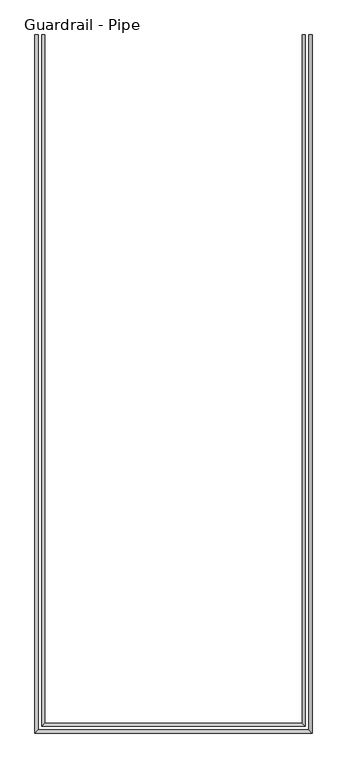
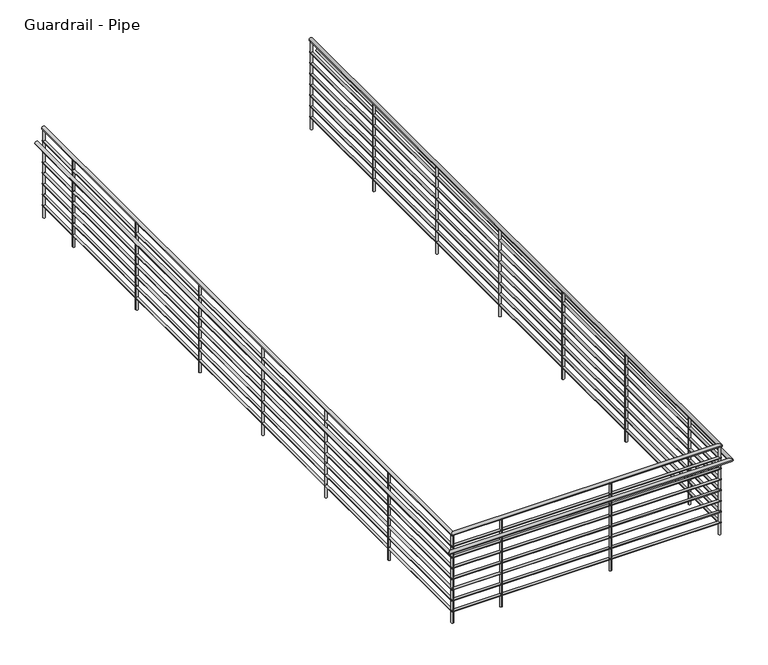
"""IFC4 building model written with IfcOpenShell, lengths in millimetres: railing geometry, Guardrail - Pipe."""

from ifc_helpers import new_model, si_unit, point, frame, frame_2d, origin, place, context, project, spatial, circle_curve, ellipse_curve, trimmed, segment, composite_curve, outline, extrude, source, transform, mapped, element, save
from ifc_brep_helpers import plane_surface, cylinder_surface, advanced_brep


def guardrail_pipe_2c45154f(model_context):
    return source(origin(), model_context, "Body", "SolidModel", [
        advanced_brep(
        [(13977.3813552, 40732.0, 4705.35), (13939.2813552, 40732.0, 4705.35), (13977.3813552, 32813.55, 4705.35), (13939.2813552, 32851.65, 4705.35), (10956.4813551, 32813.55, 4705.35), (10994.5813551, 32851.65, 4705.35), (10956.4813551, 40732.0, 4705.35), (10994.5813551, 40732.0, 4705.35)],
        [
            (0, 1, circle_curve(frame((13958.3313552, 40732.0, 4705.35), z_axis=(0.0, 1.0, 0.0), x_axis=(-1.0, 0.0, 0.0)), 19.05)),
            (1, 0, circle_curve(frame((13958.3313552, 40732.0, 4705.35), z_axis=(0.0, 1.0, 0.0), x_axis=(-1.0, 0.0, 0.0)), 19.05)),
            (0, 2),
            (2, 3, ellipse_curve(frame((13958.3313552, 32832.6, 4705.35), z_axis=(0.7071067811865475, 0.7071067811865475, 0.0), x_axis=(-0.7071067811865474, 0.7071067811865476, 0.0)), 26.9407684, 19.05)),
            (3, 1),
            (3, 2, ellipse_curve(frame((13958.3313552, 32832.6, 4705.35), z_axis=(0.7071067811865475, 0.7071067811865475, 0.0), x_axis=(-0.7071067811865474, 0.7071067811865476, 0.0)), 26.9407684, 19.05)),
            (2, 4),
            (4, 5, ellipse_curve(frame((10975.5313551, 32832.6, 4705.35), z_axis=(0.7071067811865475, -0.7071067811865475, 0.0), x_axis=(0.7071067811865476, 0.7071067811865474, 0.0)), 26.9407684, 19.05)),
            (5, 3),
            (5, 4, ellipse_curve(frame((10975.5313551, 32832.6, 4705.35), z_axis=(0.7071067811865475, -0.7071067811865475, 0.0), x_axis=(0.7071067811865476, 0.7071067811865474, 0.0)), 26.9407684, 19.05)),
            (6, 7, circle_curve(frame((10975.5313551, 40732.0, 4705.35), z_axis=(0.0, 1.0, 0.0), x_axis=(1.0, 0.0, 0.0)), 19.05)),
            (7, 6, circle_curve(frame((10975.5313551, 40732.0, 4705.35), z_axis=(0.0, 1.0, 0.0), x_axis=(1.0, 0.0, 0.0)), 19.05)),
            (4, 6),
            (7, 5),
        ],
        [
            plane_surface(frame((13958.3313552, 40732.0, 4724.4), z_axis=(0.0, 1.0, 0.0), x_axis=(0.0, 0.0, -1.0))),
            cylinder_surface(frame((13958.3313552, 40732.0, 4705.35), z_axis=(0.0, 1.0, 0.0), x_axis=(-1.0, 0.0, 0.0)), 19.05),
            cylinder_surface(frame((13958.3313552, 32832.6, 4705.35), z_axis=(1.0, 0.0, 0.0), x_axis=(0.0, 1.0, 0.0)), 19.05),
            plane_surface(frame((10975.5313551, 40732.0, 4724.4), z_axis=(0.0, 1.0, 0.0), x_axis=(0.0, 0.0, 1.0))),
            cylinder_surface(frame((10975.5313551, 32832.6, 4705.35), z_axis=(0.0, -1.0, 0.0), x_axis=(1.0, 0.0, 0.0)), 19.05),
        ],
        [
            (0, [[1, 2]]),
            (1, [[-1, 3, 4, 5]]),
            (1, [[-2, -5, 6, -3]]),
            (2, [[-4, 7, 8, 9]]),
            (2, [[-6, -9, 10, -7]]),
            (3, [[11, 12]]),
            (4, [[-8, 13, -12, 14]]),
            (4, [[-10, -14, -11, -13]]),
        ],
    ),
        advanced_brep(
        [(13971.0313552, 40732.0, 4559.3), (13945.6313552, 40732.0, 4559.3), (13971.0313552, 32819.9, 4559.3), (13945.6313552, 32845.3, 4559.3), (10962.8313551, 32819.9, 4559.3), (10988.2313551, 32845.3, 4559.3), (10962.8313551, 40732.0, 4559.3), (10988.2313551, 40732.0, 4559.3)],
        [
            (0, 1, circle_curve(frame((13958.3313552, 40732.0, 4559.3), z_axis=(0.0, 1.0, 0.0), x_axis=(-1.0, 0.0, 0.0)), 12.7)),
            (1, 0, circle_curve(frame((13958.3313552, 40732.0, 4559.3), z_axis=(0.0, 1.0, 0.0), x_axis=(-1.0, 0.0, 0.0)), 12.7)),
            (0, 2),
            (2, 3, ellipse_curve(frame((13958.3313552, 32832.6, 4559.3), z_axis=(0.7071067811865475, 0.7071067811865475, 0.0), x_axis=(-0.7071067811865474, 0.7071067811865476, 0.0)), 17.9605122, 12.7)),
            (3, 1),
            (3, 2, ellipse_curve(frame((13958.3313552, 32832.6, 4559.3), z_axis=(0.7071067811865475, 0.7071067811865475, 0.0), x_axis=(-0.7071067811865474, 0.7071067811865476, 0.0)), 17.9605122, 12.7)),
            (2, 4),
            (4, 5, ellipse_curve(frame((10975.5313551, 32832.6, 4559.3), z_axis=(0.7071067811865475, -0.7071067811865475, 0.0), x_axis=(0.7071067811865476, 0.7071067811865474, 0.0)), 17.9605122, 12.7)),
            (5, 3),
            (5, 4, ellipse_curve(frame((10975.5313551, 32832.6, 4559.3), z_axis=(0.7071067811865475, -0.7071067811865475, 0.0), x_axis=(0.7071067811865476, 0.7071067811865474, 0.0)), 17.9605122, 12.7)),
            (6, 7, circle_curve(frame((10975.5313551, 40732.0, 4559.3), z_axis=(0.0, 1.0, 0.0), x_axis=(1.0, 0.0, 0.0)), 12.7)),
            (7, 6, circle_curve(frame((10975.5313551, 40732.0, 4559.3), z_axis=(0.0, 1.0, 0.0), x_axis=(1.0, 0.0, 0.0)), 12.7)),
            (4, 6),
            (7, 5),
        ],
        [
            plane_surface(frame((13958.3313552, 40732.0, 4572.0), z_axis=(0.0, 1.0, 0.0), x_axis=(0.0, 0.0, -1.0))),
            cylinder_surface(frame((13958.3313552, 40732.0, 4559.3), z_axis=(0.0, 1.0, 0.0), x_axis=(-1.0, 0.0, 0.0)), 12.7),
            cylinder_surface(frame((13958.3313552, 32832.6, 4559.3), z_axis=(1.0, 0.0, 0.0), x_axis=(0.0, 1.0, 0.0)), 12.7),
            plane_surface(frame((10975.5313551, 40732.0, 4572.0), z_axis=(0.0, 1.0, 0.0), x_axis=(0.0, 0.0, 1.0))),
            cylinder_surface(frame((10975.5313551, 32832.6, 4559.3), z_axis=(0.0, -1.0, 0.0), x_axis=(1.0, 0.0, 0.0)), 12.7),
        ],
        [
            (0, [[1, 2]]),
            (1, [[-1, 3, 4, 5]]),
            (1, [[-2, -5, 6, -3]]),
            (2, [[-4, 7, 8, 9]]),
            (2, [[-6, -9, 10, -7]]),
            (3, [[11, 12]]),
            (4, [[-8, 13, -12, 14]]),
            (4, [[-10, -14, -11, -13]]),
        ],
    ),
        advanced_brep(
        [(14053.5813552, 40732.0, 4552.95), (14015.4813552, 40732.0, 4552.95), (14053.5813552, 32737.35, 4552.95), (14015.4813552, 32775.45, 4552.95), (10880.2813551, 32737.35, 4552.95), (10918.3813551, 32775.45, 4552.95), (10880.2813551, 40732.0, 4552.95), (10918.3813551, 40732.0, 4552.95)],
        [
            (0, 1, circle_curve(frame((14034.5313552, 40732.0, 4552.95), z_axis=(0.0, 1.0, 0.0), x_axis=(-1.0, 0.0, 0.0)), 19.05)),
            (1, 0, circle_curve(frame((14034.5313552, 40732.0, 4552.95), z_axis=(0.0, 1.0, 0.0), x_axis=(-1.0, 0.0, 0.0)), 19.05)),
            (0, 2),
            (2, 3, ellipse_curve(frame((14034.5313552, 32756.4, 4552.95), z_axis=(0.7071067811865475, 0.7071067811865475, 0.0), x_axis=(-0.7071067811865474, 0.7071067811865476, 0.0)), 26.9407684, 19.05)),
            (3, 1),
            (3, 2, ellipse_curve(frame((14034.5313552, 32756.4, 4552.95), z_axis=(0.7071067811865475, 0.7071067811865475, 0.0), x_axis=(-0.7071067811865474, 0.7071067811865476, 0.0)), 26.9407684, 19.05)),
            (2, 4),
            (4, 5, ellipse_curve(frame((10899.3313551, 32756.4, 4552.95), z_axis=(0.7071067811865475, -0.7071067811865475, 0.0), x_axis=(0.7071067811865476, 0.7071067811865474, 0.0)), 26.9407684, 19.05)),
            (5, 3),
            (5, 4, ellipse_curve(frame((10899.3313551, 32756.4, 4552.95), z_axis=(0.7071067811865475, -0.7071067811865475, 0.0), x_axis=(0.7071067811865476, 0.7071067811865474, 0.0)), 26.9407684, 19.05)),
            (6, 7, circle_curve(frame((10899.3313551, 40732.0, 4552.95), z_axis=(0.0, 1.0, 0.0), x_axis=(1.0, 0.0, 0.0)), 19.05)),
            (7, 6, circle_curve(frame((10899.3313551, 40732.0, 4552.95), z_axis=(0.0, 1.0, 0.0), x_axis=(1.0, 0.0, 0.0)), 19.05)),
            (4, 6),
            (7, 5),
        ],
        [
            plane_surface(frame((14034.5313552, 40732.0, 4572.0), z_axis=(0.0, 1.0, 0.0), x_axis=(0.0, 0.0, -1.0))),
            cylinder_surface(frame((14034.5313552, 40732.0, 4552.95), z_axis=(0.0, 1.0, 0.0), x_axis=(-1.0, 0.0, 0.0)), 19.05),
            cylinder_surface(frame((14034.5313552, 32756.4, 4552.95), z_axis=(1.0, 0.0, 0.0), x_axis=(0.0, 1.0, 0.0)), 19.05),
            plane_surface(frame((10899.3313551, 40732.0, 4572.0), z_axis=(0.0, 1.0, 0.0), x_axis=(0.0, 0.0, 1.0))),
            cylinder_surface(frame((10899.3313551, 32756.4, 4552.95), z_axis=(0.0, -1.0, 0.0), x_axis=(1.0, 0.0, 0.0)), 19.05),
        ],
        [
            (0, [[1, 2]]),
            (1, [[-1, 3, 4, 5]]),
            (1, [[-2, -5, 6, -3]]),
            (2, [[-4, 7, 8, 9]]),
            (2, [[-6, -9, 10, -7]]),
            (3, [[11, 12]]),
            (4, [[-8, 13, -12, 14]]),
            (4, [[-10, -14, -11, -13]]),
        ],
    ),
        advanced_brep(
        [(13971.0313552, 40732.0, 4432.3), (13945.6313552, 40732.0, 4432.3), (13971.0313552, 32819.9, 4432.3), (13945.6313552, 32845.3, 4432.3), (10962.8313551, 32819.9, 4432.3), (10988.2313551, 32845.3, 4432.3), (10962.8313551, 40732.0, 4432.3), (10988.2313551, 40732.0, 4432.3)],
        [
            (0, 1, circle_curve(frame((13958.3313552, 40732.0, 4432.3), z_axis=(0.0, 1.0, 0.0), x_axis=(-1.0, 0.0, 0.0)), 12.7)),
            (1, 0, circle_curve(frame((13958.3313552, 40732.0, 4432.3), z_axis=(0.0, 1.0, 0.0), x_axis=(-1.0, 0.0, 0.0)), 12.7)),
            (0, 2),
            (2, 3, ellipse_curve(frame((13958.3313552, 32832.6, 4432.3), z_axis=(0.7071067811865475, 0.7071067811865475, 0.0), x_axis=(-0.7071067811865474, 0.7071067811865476, 0.0)), 17.9605122, 12.7)),
            (3, 1),
            (3, 2, ellipse_curve(frame((13958.3313552, 32832.6, 4432.3), z_axis=(0.7071067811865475, 0.7071067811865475, 0.0), x_axis=(-0.7071067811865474, 0.7071067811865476, 0.0)), 17.9605122, 12.7)),
            (2, 4),
            (4, 5, ellipse_curve(frame((10975.5313551, 32832.6, 4432.3), z_axis=(0.7071067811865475, -0.7071067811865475, 0.0), x_axis=(0.7071067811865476, 0.7071067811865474, 0.0)), 17.9605122, 12.7)),
            (5, 3),
            (5, 4, ellipse_curve(frame((10975.5313551, 32832.6, 4432.3), z_axis=(0.7071067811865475, -0.7071067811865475, 0.0), x_axis=(0.7071067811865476, 0.7071067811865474, 0.0)), 17.9605122, 12.7)),
            (6, 7, circle_curve(frame((10975.5313551, 40732.0, 4432.3), z_axis=(0.0, 1.0, 0.0), x_axis=(1.0, 0.0, 0.0)), 12.7)),
            (7, 6, circle_curve(frame((10975.5313551, 40732.0, 4432.3), z_axis=(0.0, 1.0, 0.0), x_axis=(1.0, 0.0, 0.0)), 12.7)),
            (4, 6),
            (7, 5),
        ],
        [
            plane_surface(frame((13958.3313552, 40732.0, 4445.0), z_axis=(0.0, 1.0, 0.0), x_axis=(0.0, 0.0, -1.0))),
            cylinder_surface(frame((13958.3313552, 40732.0, 4432.3), z_axis=(0.0, 1.0, 0.0), x_axis=(-1.0, 0.0, 0.0)), 12.7),
            cylinder_surface(frame((13958.3313552, 32832.6, 4432.3), z_axis=(1.0, 0.0, 0.0), x_axis=(0.0, 1.0, 0.0)), 12.7),
            plane_surface(frame((10975.5313551, 40732.0, 4445.0), z_axis=(0.0, 1.0, 0.0), x_axis=(0.0, 0.0, 1.0))),
            cylinder_surface(frame((10975.5313551, 32832.6, 4432.3), z_axis=(0.0, -1.0, 0.0), x_axis=(1.0, 0.0, 0.0)), 12.7),
        ],
        [
            (0, [[1, 2]]),
            (1, [[-1, 3, 4, 5]]),
            (1, [[-2, -5, 6, -3]]),
            (2, [[-4, 7, 8, 9]]),
            (2, [[-6, -9, 10, -7]]),
            (3, [[11, 12]]),
            (4, [[-8, 13, -12, 14]]),
            (4, [[-10, -14, -11, -13]]),
        ],
    ),
        advanced_brep(
        [(13971.0313552, 40732.0, 4305.3), (13945.6313552, 40732.0, 4305.3), (13971.0313552, 32819.9, 4305.3), (13945.6313552, 32845.3, 4305.3), (10962.8313551, 32819.9, 4305.3), (10988.2313551, 32845.3, 4305.3), (10962.8313551, 40732.0, 4305.3), (10988.2313551, 40732.0, 4305.3)],
        [
            (0, 1, circle_curve(frame((13958.3313552, 40732.0, 4305.3), z_axis=(0.0, 1.0, 0.0), x_axis=(-1.0, 0.0, 0.0)), 12.7)),
            (1, 0, circle_curve(frame((13958.3313552, 40732.0, 4305.3), z_axis=(0.0, 1.0, 0.0), x_axis=(-1.0, 0.0, 0.0)), 12.7)),
            (0, 2),
            (2, 3, ellipse_curve(frame((13958.3313552, 32832.6, 4305.3), z_axis=(0.7071067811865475, 0.7071067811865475, 0.0), x_axis=(-0.7071067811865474, 0.7071067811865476, 0.0)), 17.9605122, 12.7)),
            (3, 1),
            (3, 2, ellipse_curve(frame((13958.3313552, 32832.6, 4305.3), z_axis=(0.7071067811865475, 0.7071067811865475, 0.0), x_axis=(-0.7071067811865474, 0.7071067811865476, 0.0)), 17.9605122, 12.7)),
            (2, 4),
            (4, 5, ellipse_curve(frame((10975.5313551, 32832.6, 4305.3), z_axis=(0.7071067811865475, -0.7071067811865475, 0.0), x_axis=(0.7071067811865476, 0.7071067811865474, 0.0)), 17.9605122, 12.7)),
            (5, 3),
            (5, 4, ellipse_curve(frame((10975.5313551, 32832.6, 4305.3), z_axis=(0.7071067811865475, -0.7071067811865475, 0.0), x_axis=(0.7071067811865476, 0.7071067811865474, 0.0)), 17.9605122, 12.7)),
            (6, 7, circle_curve(frame((10975.5313551, 40732.0, 4305.3), z_axis=(0.0, 1.0, 0.0), x_axis=(1.0, 0.0, 0.0)), 12.7)),
            (7, 6, circle_curve(frame((10975.5313551, 40732.0, 4305.3), z_axis=(0.0, 1.0, 0.0), x_axis=(1.0, 0.0, 0.0)), 12.7)),
            (4, 6),
            (7, 5),
        ],
        [
            plane_surface(frame((13958.3313552, 40732.0, 4318.0), z_axis=(0.0, 1.0, 0.0), x_axis=(0.0, 0.0, -1.0))),
            cylinder_surface(frame((13958.3313552, 40732.0, 4305.3), z_axis=(0.0, 1.0, 0.0), x_axis=(-1.0, 0.0, 0.0)), 12.7),
            cylinder_surface(frame((13958.3313552, 32832.6, 4305.3), z_axis=(1.0, 0.0, 0.0), x_axis=(0.0, 1.0, 0.0)), 12.7),
            plane_surface(frame((10975.5313551, 40732.0, 4318.0), z_axis=(0.0, 1.0, 0.0), x_axis=(0.0, 0.0, 1.0))),
            cylinder_surface(frame((10975.5313551, 32832.6, 4305.3), z_axis=(0.0, -1.0, 0.0), x_axis=(1.0, 0.0, 0.0)), 12.7),
        ],
        [
            (0, [[1, 2]]),
            (1, [[-1, 3, 4, 5]]),
            (1, [[-2, -5, 6, -3]]),
            (2, [[-4, 7, 8, 9]]),
            (2, [[-6, -9, 10, -7]]),
            (3, [[11, 12]]),
            (4, [[-8, 13, -12, 14]]),
            (4, [[-10, -14, -11, -13]]),
        ],
    ),
        advanced_brep(
        [(13971.0313552, 40732.0, 4178.3), (13945.6313552, 40732.0, 4178.3), (13971.0313552, 32819.9, 4178.3), (13945.6313552, 32845.3, 4178.3), (10962.8313551, 32819.9, 4178.3), (10988.2313551, 32845.3, 4178.3), (10962.8313551, 40732.0, 4178.3), (10988.2313551, 40732.0, 4178.3)],
        [
            (0, 1, circle_curve(frame((13958.3313552, 40732.0, 4178.3), z_axis=(0.0, 1.0, 0.0), x_axis=(-1.0, 0.0, 0.0)), 12.7)),
            (1, 0, circle_curve(frame((13958.3313552, 40732.0, 4178.3), z_axis=(0.0, 1.0, 0.0), x_axis=(-1.0, 0.0, 0.0)), 12.7)),
            (0, 2),
            (2, 3, ellipse_curve(frame((13958.3313552, 32832.6, 4178.3), z_axis=(0.7071067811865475, 0.7071067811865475, 0.0), x_axis=(-0.7071067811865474, 0.7071067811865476, 0.0)), 17.9605122, 12.7)),
            (3, 1),
            (3, 2, ellipse_curve(frame((13958.3313552, 32832.6, 4178.3), z_axis=(0.7071067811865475, 0.7071067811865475, 0.0), x_axis=(-0.7071067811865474, 0.7071067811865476, 0.0)), 17.9605122, 12.7)),
            (2, 4),
            (4, 5, ellipse_curve(frame((10975.5313551, 32832.6, 4178.3), z_axis=(0.7071067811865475, -0.7071067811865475, 0.0), x_axis=(0.7071067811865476, 0.7071067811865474, 0.0)), 17.9605122, 12.7)),
            (5, 3),
            (5, 4, ellipse_curve(frame((10975.5313551, 32832.6, 4178.3), z_axis=(0.7071067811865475, -0.7071067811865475, 0.0), x_axis=(0.7071067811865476, 0.7071067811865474, 0.0)), 17.9605122, 12.7)),
            (6, 7, circle_curve(frame((10975.5313551, 40732.0, 4178.3), z_axis=(0.0, 1.0, 0.0), x_axis=(1.0, 0.0, 0.0)), 12.7)),
            (7, 6, circle_curve(frame((10975.5313551, 40732.0, 4178.3), z_axis=(0.0, 1.0, 0.0), x_axis=(1.0, 0.0, 0.0)), 12.7)),
            (4, 6),
            (7, 5),
        ],
        [
            plane_surface(frame((13958.3313552, 40732.0, 4191.0), z_axis=(0.0, 1.0, 0.0), x_axis=(0.0, 0.0, -1.0))),
            cylinder_surface(frame((13958.3313552, 40732.0, 4178.3), z_axis=(0.0, 1.0, 0.0), x_axis=(-1.0, 0.0, 0.0)), 12.7),
            cylinder_surface(frame((13958.3313552, 32832.6, 4178.3), z_axis=(1.0, 0.0, 0.0), x_axis=(0.0, 1.0, 0.0)), 12.7),
            plane_surface(frame((10975.5313551, 40732.0, 4191.0), z_axis=(0.0, 1.0, 0.0), x_axis=(0.0, 0.0, 1.0))),
            cylinder_surface(frame((10975.5313551, 32832.6, 4178.3), z_axis=(0.0, -1.0, 0.0), x_axis=(1.0, 0.0, 0.0)), 12.7),
        ],
        [
            (0, [[1, 2]]),
            (1, [[-1, 3, 4, 5]]),
            (1, [[-2, -5, 6, -3]]),
            (2, [[-4, 7, 8, 9]]),
            (2, [[-6, -9, 10, -7]]),
            (3, [[11, 12]]),
            (4, [[-8, 13, -12, 14]]),
            (4, [[-10, -14, -11, -13]]),
        ],
    ),
        advanced_brep(
        [(13971.0313552, 40732.0, 4051.3), (13945.6313552, 40732.0, 4051.3), (13971.0313552, 32819.9, 4051.3), (13945.6313552, 32845.3, 4051.3), (10962.8313551, 32819.9, 4051.3), (10988.2313551, 32845.3, 4051.3), (10962.8313551, 40732.0, 4051.3), (10988.2313551, 40732.0, 4051.3)],
        [
            (0, 1, circle_curve(frame((13958.3313552, 40732.0, 4051.3), z_axis=(0.0, 1.0, 0.0), x_axis=(-1.0, 0.0, 0.0)), 12.7)),
            (1, 0, circle_curve(frame((13958.3313552, 40732.0, 4051.3), z_axis=(0.0, 1.0, 0.0), x_axis=(-1.0, 0.0, 0.0)), 12.7)),
            (0, 2),
            (2, 3, ellipse_curve(frame((13958.3313552, 32832.6, 4051.3), z_axis=(0.7071067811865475, 0.7071067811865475, 0.0), x_axis=(-0.7071067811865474, 0.7071067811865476, 0.0)), 17.9605122, 12.7)),
            (3, 1),
            (3, 2, ellipse_curve(frame((13958.3313552, 32832.6, 4051.3), z_axis=(0.7071067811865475, 0.7071067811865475, 0.0), x_axis=(-0.7071067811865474, 0.7071067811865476, 0.0)), 17.9605122, 12.7)),
            (2, 4),
            (4, 5, ellipse_curve(frame((10975.5313551, 32832.6, 4051.3), z_axis=(0.7071067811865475, -0.7071067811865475, 0.0), x_axis=(0.7071067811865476, 0.7071067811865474, 0.0)), 17.9605122, 12.7)),
            (5, 3),
            (5, 4, ellipse_curve(frame((10975.5313551, 32832.6, 4051.3), z_axis=(0.7071067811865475, -0.7071067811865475, 0.0), x_axis=(0.7071067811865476, 0.7071067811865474, 0.0)), 17.9605122, 12.7)),
            (6, 7, circle_curve(frame((10975.5313551, 40732.0, 4051.3), z_axis=(0.0, 1.0, 0.0), x_axis=(1.0, 0.0, 0.0)), 12.7)),
            (7, 6, circle_curve(frame((10975.5313551, 40732.0, 4051.3), z_axis=(0.0, 1.0, 0.0), x_axis=(1.0, 0.0, 0.0)), 12.7)),
            (4, 6),
            (7, 5),
        ],
        [
            plane_surface(frame((13958.3313552, 40732.0, 4064.0), z_axis=(0.0, 1.0, 0.0), x_axis=(0.0, 0.0, -1.0))),
            cylinder_surface(frame((13958.3313552, 40732.0, 4051.3), z_axis=(0.0, 1.0, 0.0), x_axis=(-1.0, 0.0, 0.0)), 12.7),
            cylinder_surface(frame((13958.3313552, 32832.6, 4051.3), z_axis=(1.0, 0.0, 0.0), x_axis=(0.0, 1.0, 0.0)), 12.7),
            plane_surface(frame((10975.5313551, 40732.0, 4064.0), z_axis=(0.0, 1.0, 0.0), x_axis=(0.0, 0.0, 1.0))),
            cylinder_surface(frame((10975.5313551, 32832.6, 4051.3), z_axis=(0.0, -1.0, 0.0), x_axis=(1.0, 0.0, 0.0)), 12.7),
        ],
        [
            (0, [[1, 2]]),
            (1, [[-1, 3, 4, 5]]),
            (1, [[-2, -5, 6, -3]]),
            (2, [[-4, 7, 8, 9]]),
            (2, [[-6, -9, 10, -7]]),
            (3, [[11, 12]]),
            (4, [[-8, 13, -12, 14]]),
            (4, [[-10, -14, -11, -13]]),
        ],
    ),
        advanced_brep(
        [(13971.0313552, 40732.0, 3924.3), (13945.6313552, 40732.0, 3924.3), (13971.0313552, 32819.9, 3924.3), (13945.6313552, 32845.3, 3924.3), (10962.8313551, 32819.9, 3924.3), (10988.2313551, 32845.3, 3924.3), (10962.8313551, 40732.0, 3924.3), (10988.2313551, 40732.0, 3924.3)],
        [
            (0, 1, circle_curve(frame((13958.3313552, 40732.0, 3924.3), z_axis=(0.0, 1.0, 0.0), x_axis=(-1.0, 0.0, 0.0)), 12.7)),
            (1, 0, circle_curve(frame((13958.3313552, 40732.0, 3924.3), z_axis=(0.0, 1.0, 0.0), x_axis=(-1.0, 0.0, 0.0)), 12.7)),
            (0, 2),
            (2, 3, ellipse_curve(frame((13958.3313552, 32832.6, 3924.3), z_axis=(0.7071067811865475, 0.7071067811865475, 0.0), x_axis=(-0.7071067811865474, 0.7071067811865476, 0.0)), 17.9605122, 12.7)),
            (3, 1),
            (3, 2, ellipse_curve(frame((13958.3313552, 32832.6, 3924.3), z_axis=(0.7071067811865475, 0.7071067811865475, 0.0), x_axis=(-0.7071067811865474, 0.7071067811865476, 0.0)), 17.9605122, 12.7)),
            (2, 4),
            (4, 5, ellipse_curve(frame((10975.5313551, 32832.6, 3924.3), z_axis=(0.7071067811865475, -0.7071067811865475, 0.0), x_axis=(0.7071067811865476, 0.7071067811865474, 0.0)), 17.9605122, 12.7)),
            (5, 3),
            (5, 4, ellipse_curve(frame((10975.5313551, 32832.6, 3924.3), z_axis=(0.7071067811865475, -0.7071067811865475, 0.0), x_axis=(0.7071067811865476, 0.7071067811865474, 0.0)), 17.9605122, 12.7)),
            (6, 7, circle_curve(frame((10975.5313551, 40732.0, 3924.3), z_axis=(0.0, 1.0, 0.0), x_axis=(1.0, 0.0, 0.0)), 12.7)),
            (7, 6, circle_curve(frame((10975.5313551, 40732.0, 3924.3), z_axis=(0.0, 1.0, 0.0), x_axis=(1.0, 0.0, 0.0)), 12.7)),
            (4, 6),
            (7, 5),
        ],
        [
            plane_surface(frame((13958.3313552, 40732.0, 3937.0), z_axis=(0.0, 1.0, 0.0), x_axis=(0.0, 0.0, -1.0))),
            cylinder_surface(frame((13958.3313552, 40732.0, 3924.3), z_axis=(0.0, 1.0, 0.0), x_axis=(-1.0, 0.0, 0.0)), 12.7),
            cylinder_surface(frame((13958.3313552, 32832.6, 3924.3), z_axis=(1.0, 0.0, 0.0), x_axis=(0.0, 1.0, 0.0)), 12.7),
            plane_surface(frame((10975.5313551, 40732.0, 3937.0), z_axis=(0.0, 1.0, 0.0), x_axis=(0.0, 0.0, 1.0))),
            cylinder_surface(frame((10975.5313551, 32832.6, 3924.3), z_axis=(0.0, -1.0, 0.0), x_axis=(1.0, 0.0, 0.0)), 12.7),
        ],
        [
            (0, [[1, 2]]),
            (1, [[-1, 3, 4, 5]]),
            (1, [[-2, -5, 6, -3]]),
            (2, [[-4, 7, 8, 9]]),
            (2, [[-6, -9, 10, -7]]),
            (3, [[11, 12]]),
            (4, [[-8, 13, -12, 14]]),
            (4, [[-10, -14, -11, -13]]),
        ],
    ),
        advanced_brep(
        [(13971.0313552, 40732.0, 3797.3), (13945.6313552, 40732.0, 3797.3), (13971.0313552, 32819.9, 3797.3), (13945.6313552, 32845.3, 3797.3), (10962.8313551, 32819.9, 3797.3), (10988.2313551, 32845.3, 3797.3), (10962.8313551, 40732.0, 3797.3), (10988.2313551, 40732.0, 3797.3)],
        [
            (0, 1, circle_curve(frame((13958.3313552, 40732.0, 3797.3), z_axis=(0.0, 1.0, 0.0), x_axis=(-1.0, 0.0, 0.0)), 12.7)),
            (1, 0, circle_curve(frame((13958.3313552, 40732.0, 3797.3), z_axis=(0.0, 1.0, 0.0), x_axis=(-1.0, 0.0, 0.0)), 12.7)),
            (0, 2),
            (2, 3, ellipse_curve(frame((13958.3313552, 32832.6, 3797.3), z_axis=(0.7071067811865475, 0.7071067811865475, 0.0), x_axis=(-0.7071067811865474, 0.7071067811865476, 0.0)), 17.9605122, 12.7)),
            (3, 1),
            (3, 2, ellipse_curve(frame((13958.3313552, 32832.6, 3797.3), z_axis=(0.7071067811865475, 0.7071067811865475, 0.0), x_axis=(-0.7071067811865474, 0.7071067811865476, 0.0)), 17.9605122, 12.7)),
            (2, 4),
            (4, 5, ellipse_curve(frame((10975.5313551, 32832.6, 3797.3), z_axis=(0.7071067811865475, -0.7071067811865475, 0.0), x_axis=(0.7071067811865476, 0.7071067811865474, 0.0)), 17.9605122, 12.7)),
            (5, 3),
            (5, 4, ellipse_curve(frame((10975.5313551, 32832.6, 3797.3), z_axis=(0.7071067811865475, -0.7071067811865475, 0.0), x_axis=(0.7071067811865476, 0.7071067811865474, 0.0)), 17.9605122, 12.7)),
            (6, 7, circle_curve(frame((10975.5313551, 40732.0, 3797.3), z_axis=(0.0, 1.0, 0.0), x_axis=(1.0, 0.0, 0.0)), 12.7)),
            (7, 6, circle_curve(frame((10975.5313551, 40732.0, 3797.3), z_axis=(0.0, 1.0, 0.0), x_axis=(1.0, 0.0, 0.0)), 12.7)),
            (4, 6),
            (7, 5),
        ],
        [
            plane_surface(frame((13958.3313552, 40732.0, 3810.0), z_axis=(0.0, 1.0, 0.0), x_axis=(0.0, 0.0, -1.0))),
            cylinder_surface(frame((13958.3313552, 40732.0, 3797.3), z_axis=(0.0, 1.0, 0.0), x_axis=(-1.0, 0.0, 0.0)), 12.7),
            cylinder_surface(frame((13958.3313552, 32832.6, 3797.3), z_axis=(1.0, 0.0, 0.0), x_axis=(0.0, 1.0, 0.0)), 12.7),
            plane_surface(frame((10975.5313551, 40732.0, 3810.0), z_axis=(0.0, 1.0, 0.0), x_axis=(0.0, 0.0, 1.0))),
            cylinder_surface(frame((10975.5313551, 32832.6, 3797.3), z_axis=(0.0, -1.0, 0.0), x_axis=(1.0, 0.0, 0.0)), 12.7),
        ],
        [
            (0, [[1, 2]]),
            (1, [[-1, 3, 4, 5]]),
            (1, [[-2, -5, 6, -3]]),
            (2, [[-4, 7, 8, 9]]),
            (2, [[-6, -9, 10, -7]]),
            (3, [[11, 12]]),
            (4, [[-8, 13, -12, 14]]),
            (4, [[-10, -14, -11, -13]]),
        ],
    ),
        extrude(outline(composite_curve([segment(trimmed(circle_curve(frame_2d((10975.5313551, 40147.8)), 12.7), [point((10962.8313551, 40147.8))], [point((10988.2313551, 40147.8))], False, "CARTESIAN"), True, "CONTINUOUS"), segment(trimmed(circle_curve(frame_2d((10975.5313551, 40147.8)), 12.7), [point((10988.2313551, 40147.8))], [point((10962.8313551, 40147.8))], False, "CARTESIAN"), True, "CONTINUOUS")], self_intersect=False)), frame((0.0, 0.0, 3657.6), z_axis=(0.0, 0.0, 1.0), x_axis=(1.0, 0.0, 0.0)), (0.0, 0.0, 1.0), 1028.7),
        extrude(outline(composite_curve([segment(trimmed(circle_curve(frame_2d((10975.5313551, 38928.6)), 12.7), [point((10962.8313551, 38928.6))], [point((10988.2313551, 38928.6))], False, "CARTESIAN"), True, "CONTINUOUS"), segment(trimmed(circle_curve(frame_2d((10975.5313551, 38928.6)), 12.7), [point((10988.2313551, 38928.6))], [point((10962.8313551, 38928.6))], False, "CARTESIAN"), True, "CONTINUOUS")], self_intersect=False)), frame((0.0, 0.0, 3657.6), z_axis=(0.0, 0.0, 1.0), x_axis=(1.0, 0.0, 0.0)), (0.0, 0.0, 1.0), 1028.7),
        extrude(outline(composite_curve([segment(trimmed(circle_curve(frame_2d((10975.5313551, 37709.4)), 12.7), [point((10962.8313551, 37709.4))], [point((10988.2313551, 37709.4))], False, "CARTESIAN"), True, "CONTINUOUS"), segment(trimmed(circle_curve(frame_2d((10975.5313551, 37709.4)), 12.7), [point((10988.2313551, 37709.4))], [point((10962.8313551, 37709.4))], False, "CARTESIAN"), True, "CONTINUOUS")], self_intersect=False)), frame((0.0, 0.0, 3657.6), z_axis=(0.0, 0.0, 1.0), x_axis=(1.0, 0.0, 0.0)), (0.0, 0.0, 1.0), 1028.7),
        extrude(outline(composite_curve([segment(trimmed(circle_curve(frame_2d((10975.5313551, 36490.2)), 12.7), [point((10962.8313551, 36490.2))], [point((10988.2313551, 36490.2))], False, "CARTESIAN"), True, "CONTINUOUS"), segment(trimmed(circle_curve(frame_2d((10975.5313551, 36490.2)), 12.7), [point((10988.2313551, 36490.2))], [point((10962.8313551, 36490.2))], False, "CARTESIAN"), True, "CONTINUOUS")], self_intersect=False)), frame((0.0, 0.0, 3657.6), z_axis=(0.0, 0.0, 1.0), x_axis=(1.0, 0.0, 0.0)), (0.0, 0.0, 1.0), 1028.7),
        extrude(outline(composite_curve([segment(trimmed(circle_curve(frame_2d((10975.5313551, 35271.0)), 12.7), [point((10962.8313551, 35271.0))], [point((10988.2313551, 35271.0))], False, "CARTESIAN"), True, "CONTINUOUS"), segment(trimmed(circle_curve(frame_2d((10975.5313551, 35271.0)), 12.7), [point((10988.2313551, 35271.0))], [point((10962.8313551, 35271.0))], False, "CARTESIAN"), True, "CONTINUOUS")], self_intersect=False)), frame((0.0, 0.0, 3657.6), z_axis=(0.0, 0.0, 1.0), x_axis=(1.0, 0.0, 0.0)), (0.0, 0.0, 1.0), 1028.7),
        extrude(outline(composite_curve([segment(trimmed(circle_curve(frame_2d((10975.5313551, 34051.8)), 12.7), [point((10962.8313551, 34051.8))], [point((10988.2313551, 34051.8))], False, "CARTESIAN"), True, "CONTINUOUS"), segment(trimmed(circle_curve(frame_2d((10975.5313551, 34051.8)), 12.7), [point((10988.2313551, 34051.8))], [point((10962.8313551, 34051.8))], False, "CARTESIAN"), True, "CONTINUOUS")], self_intersect=False)), frame((0.0, 0.0, 3657.6), z_axis=(0.0, 0.0, 1.0), x_axis=(1.0, 0.0, 0.0)), (0.0, 0.0, 1.0), 1028.7),
        extrude(outline(composite_curve([segment(trimmed(circle_curve(frame_2d((11519.9313552, 32832.6)), 12.7), [point((11519.9313552, 32819.9))], [point((11519.9313552, 32845.3))], False, "CARTESIAN"), True, "CONTINUOUS"), segment(trimmed(circle_curve(frame_2d((11519.9313552, 32832.6)), 12.7), [point((11519.9313552, 32845.3))], [point((11519.9313552, 32819.9))], False, "CARTESIAN"), True, "CONTINUOUS")], self_intersect=False)), frame((0.0, 0.0, 3657.6), z_axis=(0.0, 0.0, 1.0), x_axis=(1.0, 0.0, 0.0)), (0.0, 0.0, 1.0), 1028.7),
        extrude(outline(composite_curve([segment(trimmed(circle_curve(frame_2d((12739.1313552, 32832.6)), 12.7), [point((12739.1313552, 32819.9))], [point((12739.1313552, 32845.3))], False, "CARTESIAN"), True, "CONTINUOUS"), segment(trimmed(circle_curve(frame_2d((12739.1313552, 32832.6)), 12.7), [point((12739.1313552, 32845.3))], [point((12739.1313552, 32819.9))], False, "CARTESIAN"), True, "CONTINUOUS")], self_intersect=False)), frame((0.0, 0.0, 3657.6), z_axis=(0.0, 0.0, 1.0), x_axis=(1.0, 0.0, 0.0)), (0.0, 0.0, 1.0), 1028.7),
        extrude(outline(composite_curve([segment(trimmed(circle_curve(frame_2d((13958.3313552, 33416.8)), 12.7), [point((13971.0313552, 33416.8))], [point((13945.6313552, 33416.8))], False, "CARTESIAN"), True, "CONTINUOUS"), segment(trimmed(circle_curve(frame_2d((13958.3313552, 33416.8)), 12.7), [point((13945.6313552, 33416.8))], [point((13971.0313552, 33416.8))], False, "CARTESIAN"), True, "CONTINUOUS")], self_intersect=False)), frame((0.0, 0.0, 3657.6), z_axis=(0.0, 0.0, 1.0), x_axis=(1.0, 0.0, 0.0)), (0.0, 0.0, 1.0), 1028.7),
        extrude(outline(composite_curve([segment(trimmed(circle_curve(frame_2d((13958.3313552, 34636.0)), 12.7), [point((13971.0313552, 34636.0))], [point((13945.6313552, 34636.0))], False, "CARTESIAN"), True, "CONTINUOUS"), segment(trimmed(circle_curve(frame_2d((13958.3313552, 34636.0)), 12.7), [point((13945.6313552, 34636.0))], [point((13971.0313552, 34636.0))], False, "CARTESIAN"), True, "CONTINUOUS")], self_intersect=False)), frame((0.0, 0.0, 3657.6), z_axis=(0.0, 0.0, 1.0), x_axis=(1.0, 0.0, 0.0)), (0.0, 0.0, 1.0), 1028.7),
        extrude(outline(composite_curve([segment(trimmed(circle_curve(frame_2d((13958.3313552, 35855.2)), 12.7), [point((13971.0313552, 35855.2))], [point((13945.6313552, 35855.2))], False, "CARTESIAN"), True, "CONTINUOUS"), segment(trimmed(circle_curve(frame_2d((13958.3313552, 35855.2)), 12.7), [point((13945.6313552, 35855.2))], [point((13971.0313552, 35855.2))], False, "CARTESIAN"), True, "CONTINUOUS")], self_intersect=False)), frame((0.0, 0.0, 3657.6), z_axis=(0.0, 0.0, 1.0), x_axis=(1.0, 0.0, 0.0)), (0.0, 0.0, 1.0), 1028.7),
        extrude(outline(composite_curve([segment(trimmed(circle_curve(frame_2d((13958.3313552, 37074.4)), 12.7), [point((13971.0313552, 37074.4))], [point((13945.6313552, 37074.4))], False, "CARTESIAN"), True, "CONTINUOUS"), segment(trimmed(circle_curve(frame_2d((13958.3313552, 37074.4)), 12.7), [point((13945.6313552, 37074.4))], [point((13971.0313552, 37074.4))], False, "CARTESIAN"), True, "CONTINUOUS")], self_intersect=False)), frame((0.0, 0.0, 3657.6), z_axis=(0.0, 0.0, 1.0), x_axis=(1.0, 0.0, 0.0)), (0.0, 0.0, 1.0), 1028.7),
        extrude(outline(composite_curve([segment(trimmed(circle_curve(frame_2d((13958.3313552, 38293.6)), 12.7), [point((13971.0313552, 38293.6))], [point((13945.6313552, 38293.6))], False, "CARTESIAN"), True, "CONTINUOUS"), segment(trimmed(circle_curve(frame_2d((13958.3313552, 38293.6)), 12.7), [point((13945.6313552, 38293.6))], [point((13971.0313552, 38293.6))], False, "CARTESIAN"), True, "CONTINUOUS")], self_intersect=False)), frame((0.0, 0.0, 3657.6), z_axis=(0.0, 0.0, 1.0), x_axis=(1.0, 0.0, 0.0)), (0.0, 0.0, 1.0), 1028.7),
        extrude(outline(composite_curve([segment(trimmed(circle_curve(frame_2d((13958.3313552, 39512.8)), 12.7), [point((13971.0313552, 39512.8))], [point((13945.6313552, 39512.8))], False, "CARTESIAN"), True, "CONTINUOUS"), segment(trimmed(circle_curve(frame_2d((13958.3313552, 39512.8)), 12.7), [point((13945.6313552, 39512.8))], [point((13971.0313552, 39512.8))], False, "CARTESIAN"), True, "CONTINUOUS")], self_intersect=False)), frame((0.0, 0.0, 3657.6), z_axis=(0.0, 0.0, 1.0), x_axis=(1.0, 0.0, 0.0)), (0.0, 0.0, 1.0), 1028.7),
        extrude(outline(composite_curve([segment(trimmed(circle_curve(frame_2d((10975.5313551, 32832.6)), 12.7), [point((10975.5313551, 32819.9))], [point((10975.5313551, 32845.3))], False, "CARTESIAN"), True, "CONTINUOUS"), segment(trimmed(circle_curve(frame_2d((10975.5313551, 32832.6)), 12.7), [point((10975.5313551, 32845.3))], [point((10975.5313551, 32819.9))], False, "CARTESIAN"), True, "CONTINUOUS")], self_intersect=False)), frame((0.0, 0.0, 3657.6), z_axis=(0.0, 0.0, 1.0), x_axis=(1.0, 0.0, 0.0)), (0.0, 0.0, 1.0), 1028.7),
        extrude(outline(composite_curve([segment(trimmed(circle_curve(frame_2d((13958.3313552, 32832.6)), 12.7), [point((13971.0313552, 32832.6))], [point((13945.6313552, 32832.6))], False, "CARTESIAN"), True, "CONTINUOUS"), segment(trimmed(circle_curve(frame_2d((13958.3313552, 32832.6)), 12.7), [point((13945.6313552, 32832.6))], [point((13971.0313552, 32832.6))], False, "CARTESIAN"), True, "CONTINUOUS")], self_intersect=False)), frame((0.0, 0.0, 3657.6), z_axis=(0.0, 0.0, 1.0), x_axis=(1.0, 0.0, 0.0)), (0.0, 0.0, 1.0), 1028.7),
        extrude(outline(composite_curve([segment(trimmed(circle_curve(frame_2d((10975.5313551, 40719.3)), 12.7), [point((10962.8313551, 40719.3))], [point((10988.2313551, 40719.3))], False, "CARTESIAN"), True, "CONTINUOUS"), segment(trimmed(circle_curve(frame_2d((10975.5313551, 40719.3)), 12.7), [point((10988.2313551, 40719.3))], [point((10962.8313551, 40719.3))], False, "CARTESIAN"), True, "CONTINUOUS")], self_intersect=False)), frame((0.0, 0.0, 3657.6), z_axis=(0.0, 0.0, 1.0), x_axis=(1.0, 0.0, 0.0)), (0.0, 0.0, 1.0), 1028.7),
        extrude(outline(composite_curve([segment(trimmed(circle_curve(frame_2d((13958.3313552, 40719.3)), 12.7), [point((13971.0313552, 40719.3))], [point((13945.6313552, 40719.3))], False, "CARTESIAN"), True, "CONTINUOUS"), segment(trimmed(circle_curve(frame_2d((13958.3313552, 40719.3)), 12.7), [point((13945.6313552, 40719.3))], [point((13971.0313552, 40719.3))], False, "CARTESIAN"), True, "CONTINUOUS")], self_intersect=False)), frame((0.0, 0.0, 3657.6), z_axis=(0.0, 0.0, 1.0), x_axis=(1.0, 0.0, 0.0)), (0.0, 0.0, 1.0), 1028.7),
    ])


if __name__ == "__main__":
    model = new_model("IFC4")
    model_context = context("Model", 3, world=origin())
    ifc_project = project(units=[si_unit("LENGTHUNIT", "METRE", prefix="MILLI")], contexts=[model_context])
    site = spatial("IfcSite", under=ifc_project)
    building = spatial("IfcBuilding", under=site)
    placement = place(None, origin())
    guardrail_pipe_shape = guardrail_pipe_2c45154f(model_context)
    element("IfcRailing", 1, ObjectType="Guardrail - Pipe", at=placement, inside=building, context=model_context, shape_type="MappedRepresentation", body=[
        mapped(guardrail_pipe_shape, transform((0.0, 0.0, 0.0), x_axis=(1.0, 0.0, 0.0), y_axis=(0.0, 1.0, 0.0), z_axis=(0.0, 0.0, 1.0))),
    ])
    save(model, "model.ifc")
